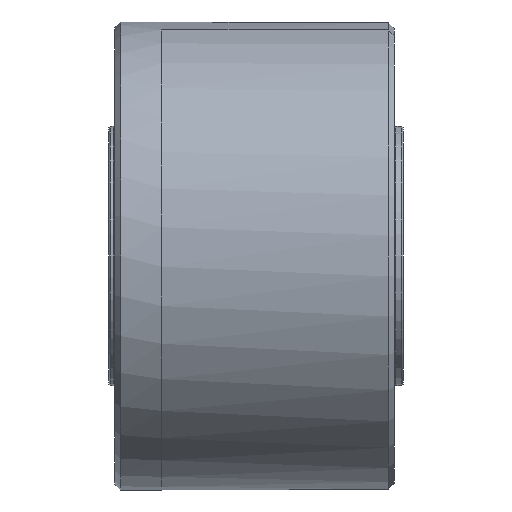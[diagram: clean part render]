
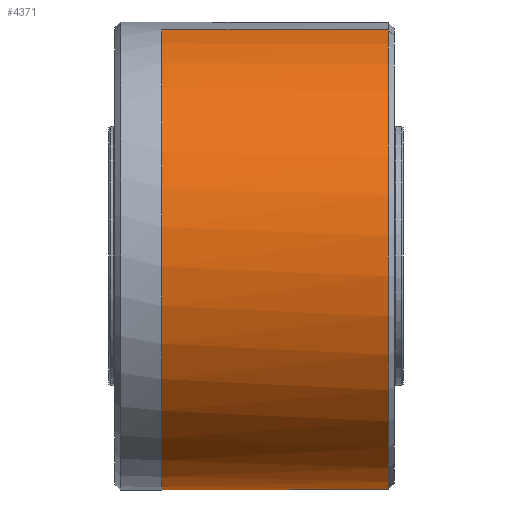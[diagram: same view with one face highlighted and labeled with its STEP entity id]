
A CAD part, left-side view. The second image highlights one B-rep face of the part: STEP entity #4371.
In plain terms, the highlighted free-form (B-spline) face has degree [12, 1] with [13, 2] control points.
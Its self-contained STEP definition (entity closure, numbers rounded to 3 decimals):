
#243=DIRECTION('',(0.,1.,0.));
#244=VECTOR('',#243,14.);
#245=CARTESIAN_POINT('',(0.,32.,79.5));
#246=LINE('',#245,#244);
#247=DIRECTION('',(0.,-1.,0.));
#248=VECTOR('',#247,77.);
#249=CARTESIAN_POINT('',(20.576,32.,-76.791));
#250=LINE('',#249,#248);
#256=DIRECTION('',(0.,-1.,0.));
#257=VECTOR('',#256,77.);
#258=CARTESIAN_POINT('',(-20.576,32.,76.791));
#259=LINE('',#258,#257);
#260=CARTESIAN_POINT('',(0.,32.,0.));
#261=DIRECTION('',(0.,1.,0.));
#262=DIRECTION('',(0.,0.,-1.));
#263=AXIS2_PLACEMENT_3D('',#260,#261,#262);
#265=DIRECTION('',(0.,1.,0.));
#266=VECTOR('',#265,14.);
#267=CARTESIAN_POINT('',(0.,32.,-79.5));
#268=LINE('',#267,#266);
#269=CARTESIAN_POINT('',(0.,-45.,0.));
#270=DIRECTION('',(0.,1.,0.));
#271=DIRECTION('',(0.259,0.,-0.966));
#272=AXIS2_PLACEMENT_3D('',#269,#270,#271);
#274=CARTESIAN_POINT('',(0.,32.,0.));
#275=DIRECTION('',(0.,1.,0.));
#276=DIRECTION('',(0.,0.,1.));
#277=AXIS2_PLACEMENT_3D('',#274,#275,#276);
#1081=CARTESIAN_POINT('',(0.,46.,0.));
#1082=DIRECTION('',(0.,-1.,0.));
#1083=DIRECTION('',(0.,0.,-1.));
#1084=AXIS2_PLACEMENT_3D('',#1081,#1082,#1083);
#3019=CARTESIAN_POINT('',(0.,46.,-79.5));
#3020=CARTESIAN_POINT('',(0.,46.,79.5));
#3021=VERTEX_POINT('',#3019);
#3022=VERTEX_POINT('',#3020);
#3211=CARTESIAN_POINT('',(20.576,-45.,-76.791));
#3212=CARTESIAN_POINT('',(-20.576,-45.,76.791));
#3213=VERTEX_POINT('',#3211);
#3214=VERTEX_POINT('',#3212);
#3219=CARTESIAN_POINT('',(0.,32.,-79.5));
#3220=CARTESIAN_POINT('',(-20.576,32.,76.791));
#3221=VERTEX_POINT('',#3219);
#3222=VERTEX_POINT('',#3220);
#3223=CARTESIAN_POINT('',(0.,32.,79.5));
#3224=CARTESIAN_POINT('',(20.576,32.,-76.791));
#3225=VERTEX_POINT('',#3223);
#3226=VERTEX_POINT('',#3224);
#4332=CARTESIAN_POINT('',(-11.202,47.82,78.707));
#4333=CARTESIAN_POINT('',(-11.202,-46.82,78.707));
#4334=CARTESIAN_POINT('',(-52.275,47.82,72.861));
#4335=CARTESIAN_POINT('',(-52.275,-46.82,72.861));
#4336=CARTESIAN_POINT('',(-90.021,47.82,43.633));
#4337=CARTESIAN_POINT('',(-90.021,-46.82,43.633));
#4338=CARTESIAN_POINT('',(-109.799,47.82,-6.894));
#4339=CARTESIAN_POINT('',(-109.799,-46.82,-6.894));
#4340=CARTESIAN_POINT('',(-98.387,47.82,-66.45));
#4341=CARTESIAN_POINT('',(-98.387,-46.82,-66.45));
#4342=CARTESIAN_POINT('',(-52.147,47.82,-113.692));
#4343=CARTESIAN_POINT('',(-52.147,-46.82,-113.692));
#4344=CARTESIAN_POINT('',(16.67,47.82,-126.583));
#4345=CARTESIAN_POINT('',(16.67,-46.82,
-126.583));
#4346=CARTESIAN_POINT('',(79.789,47.82,-96.322));
#4347=CARTESIAN_POINT('',(79.789,-46.82,
-96.322));
#4348=CARTESIAN_POINT('',(112.235,47.82,-38.722));
#4349=CARTESIAN_POINT('',(112.235,-46.82,-38.722));
#4350=CARTESIAN_POINT('',(107.842,47.82,21.759));
#4351=CARTESIAN_POINT('',(107.842,-46.82,21.759));
#4352=CARTESIAN_POINT('',(75.66,47.82,65.445));
#4353=CARTESIAN_POINT('',(75.66,-46.82,65.445));
#4354=CARTESIAN_POINT('',(31.636,47.82,83.908));
#4355=CARTESIAN_POINT('',(31.636,-46.82,83.908));
#4356=CARTESIAN_POINT('',(-9.551,47.82,78.924));
#4357=CARTESIAN_POINT('',(-9.551,-46.82,78.924));
#4358=B_SPLINE_SURFACE_WITH_KNOTS('',12,1,((#4332,#4333),(#4334,#4335),(#4336,
#4337),(#4338,#4339),(#4340,#4341),(#4342,#4343),(#4344,#4345),(#4346,#4347),(
#4348,#4349),(#4350,#4351),(#4352,#4353),(#4354,#4355),(#4356,#4357)),
.UNSPECIFIED.,.F.,.F.,.F.,(13,13),(2,2),(-6.142,0.12),(
7.18,101.82),.UNSPECIFIED.);
#4359=ORIENTED_EDGE('',*,*,#4301,.F.);
#4360=ORIENTED_EDGE('',*,*,#4299,.T.);
#4361=ORIENTED_EDGE('',*,*,#4297,.T.);
#4363=ORIENTED_EDGE('',*,*,#4362,.F.);
#4364=ORIENTED_EDGE('',*,*,#4293,.F.);
#4365=ORIENTED_EDGE('',*,*,#4291,.F.);
#4366=ORIENTED_EDGE('',*,*,#4289,.T.);
#4368=ORIENTED_EDGE('',*,*,#4367,.F.);
#4369=EDGE_LOOP('',(#4359,#4360,#4361,#4363,#4364,#4365,#4366,#4368));
#4370=FACE_OUTER_BOUND('',#4369,.F.);
#4371=ADVANCED_FACE('',(#4370),#4358,.T.);
#264=CIRCLE('',#263,79.5);
#273=CIRCLE('',#272,79.5);
#278=CIRCLE('',#277,79.5);
#1085=CIRCLE('',#1084,79.5);
#4289=EDGE_CURVE('',#3225,#3022,#246,.T.);
#4291=EDGE_CURVE('',#3225,#3226,#278,.T.);
#4293=EDGE_CURVE('',#3226,#3213,#250,.T.);
#4297=EDGE_CURVE('',#3222,#3214,#259,.T.);
#4299=EDGE_CURVE('',#3221,#3222,#264,.T.);
#4301=EDGE_CURVE('',#3221,#3021,#268,.T.);
#4362=EDGE_CURVE('',#3213,#3214,#273,.T.);
#4367=EDGE_CURVE('',#3021,#3022,#1085,.T.);
